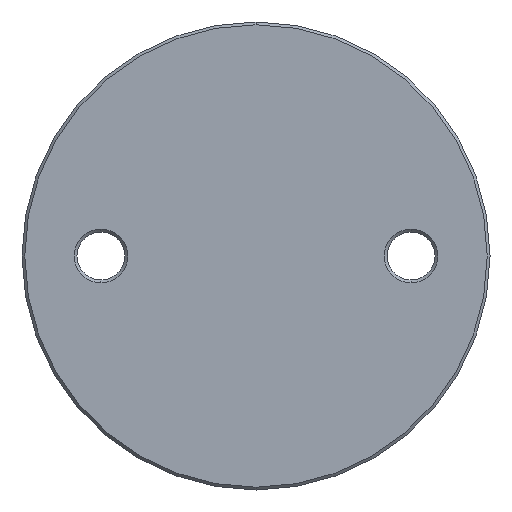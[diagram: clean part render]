
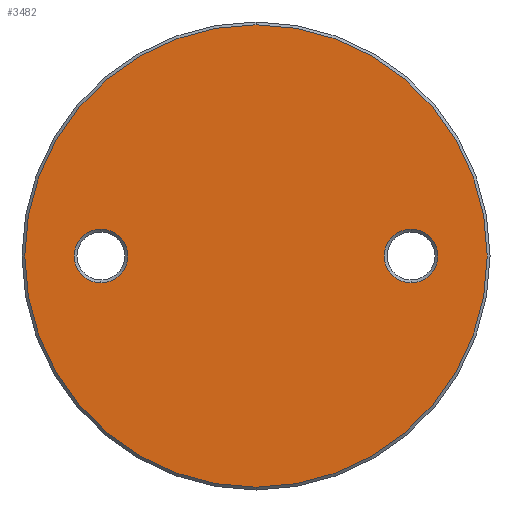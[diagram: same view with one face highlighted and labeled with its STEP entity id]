
A CAD part, front view. The second image highlights one B-rep face of the part: STEP entity #3482.
In plain terms, the highlighted planar face has unit normal (0, -1, 0).
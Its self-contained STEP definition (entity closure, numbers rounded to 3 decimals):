
#3 = AXIS2_PLACEMENT_3D ( 'NONE', #5463, #3053, #7229 ) ;
#55 = DIRECTION ( 'NONE',  ( 0., 0., -1. ) ) ;
#289 = EDGE_CURVE ( 'NONE', #6464, #9000, #4646, .T. ) ;
#791 = CARTESIAN_POINT ( 'NONE',  ( 0., -3., 41.5 ) ) ;
#869 = EDGE_LOOP ( 'NONE', ( #1090, #10445 ) ) ;
#956 = VERTEX_POINT ( 'NONE', #7854 ) ;
#1090 = ORIENTED_EDGE ( 'NONE', *, *, #3136, .T. ) ;
#1907 = DIRECTION ( 'NONE',  ( 0., -1., 0. ) ) ;
#2225 = VERTEX_POINT ( 'NONE', #6268 ) ;
#2608 = CARTESIAN_POINT ( 'NONE',  ( 0., -3., 0. ) ) ;
#2839 = EDGE_CURVE ( 'NONE', #956, #8697, #7240, .T. ) ;
#2840 = DIRECTION ( 'NONE',  ( 0., 0., -1. ) ) ;
#2968 = FACE_BOUND ( 'NONE', #869, .T. ) ;
#3011 = EDGE_CURVE ( 'NONE', #9000, #6464, #8655, .T. ) ;
#3053 = DIRECTION ( 'NONE',  ( 0., 1., 0. ) ) ;
#3101 = ORIENTED_EDGE ( 'NONE', *, *, #3011, .T. ) ;
#3136 = EDGE_CURVE ( 'NONE', #3637, #2225, #6605, .T. ) ;
#3161 = DIRECTION ( 'NONE',  ( 0., 0., -1. ) ) ;
#3482 = ADVANCED_FACE ( 'NONE', ( #2968, #10451, #6074 ), #8206, .T. ) ;
#3637 = VERTEX_POINT ( 'NONE', #5029 ) ;
#3723 = DIRECTION ( 'NONE',  ( 0., 0., -1. ) ) ;
#4162 = ORIENTED_EDGE ( 'NONE', *, *, #7547, .T. ) ;
#4323 = CARTESIAN_POINT ( 'NONE',  ( 27.5, -3., 0. ) ) ;
#4328 = ORIENTED_EDGE ( 'NONE', *, *, #2839, .T. ) ;
#4641 = CARTESIAN_POINT ( 'NONE',  ( 0., -3., -41. ) ) ;
#4646 = CIRCLE ( 'NONE', #5900, 41. ) ;
#4967 = DIRECTION ( 'NONE',  ( 0., 1., 0. ) ) ;
#5012 = EDGE_CURVE ( 'NONE', #2225, #3637, #9780, .T. ) ;
#5029 = CARTESIAN_POINT ( 'NONE',  ( 27.5, -3., -4.75 ) ) ;
#5463 = CARTESIAN_POINT ( 'NONE',  ( -27.5, -3., 0. ) ) ;
#5557 = AXIS2_PLACEMENT_3D ( 'NONE', #791, #7440, #9887 ) ;
#5611 = DIRECTION ( 'NONE',  ( 0., -1., 0. ) ) ;
#5900 = AXIS2_PLACEMENT_3D ( 'NONE', #2608, #1907, #10072 ) ;
#6057 = AXIS2_PLACEMENT_3D ( 'NONE', #9825, #5611, #3161 ) ;
#6074 = FACE_OUTER_BOUND ( 'NONE', #10359, .T. ) ;
#6268 = CARTESIAN_POINT ( 'NONE',  ( 27.5, -3., 4.75 ) ) ;
#6464 = VERTEX_POINT ( 'NONE', #4641 ) ;
#6605 = CIRCLE ( 'NONE', #7216, 4.75 ) ;
#7216 = AXIS2_PLACEMENT_3D ( 'NONE', #4323, #4967, #55 ) ;
#7229 = DIRECTION ( 'NONE',  ( 0., 0., -1. ) ) ;
#7240 = CIRCLE ( 'NONE', #3, 4.75 ) ;
#7389 = AXIS2_PLACEMENT_3D ( 'NONE', #9473, #7894, #2840 ) ;
#7440 = DIRECTION ( 'NONE',  ( 0., -1., 0. ) ) ;
#7547 = EDGE_CURVE ( 'NONE', #8697, #956, #8826, .T. ) ;
#7785 = EDGE_LOOP ( 'NONE', ( #4162, #4328 ) ) ;
#7854 = CARTESIAN_POINT ( 'NONE',  ( -27.5, -3., 4.75 ) ) ;
#7894 = DIRECTION ( 'NONE',  ( 0., 1., 0. ) ) ;
#8096 = CARTESIAN_POINT ( 'NONE',  ( 0., -3., 41. ) ) ;
#8206 = PLANE ( 'NONE',  #5557 ) ;
#8296 = ORIENTED_EDGE ( 'NONE', *, *, #289, .T. ) ;
#8642 = CARTESIAN_POINT ( 'NONE',  ( 27.5, -3., 0. ) ) ;
#8655 = CIRCLE ( 'NONE', #6057, 41. ) ;
#8697 = VERTEX_POINT ( 'NONE', #9263 ) ;
#8826 = CIRCLE ( 'NONE', #7389, 4.75 ) ;
#9000 = VERTEX_POINT ( 'NONE', #8096 ) ;
#9096 = AXIS2_PLACEMENT_3D ( 'NONE', #8642, #9540, #3723 ) ;
#9263 = CARTESIAN_POINT ( 'NONE',  ( -27.5, -3., -4.75 ) ) ;
#9473 = CARTESIAN_POINT ( 'NONE',  ( -27.5, -3., 0. ) ) ;
#9540 = DIRECTION ( 'NONE',  ( 0., 1., 0. ) ) ;
#9780 = CIRCLE ( 'NONE', #9096, 4.75 ) ;
#9825 = CARTESIAN_POINT ( 'NONE',  ( 0., -3., 0. ) ) ;
#9887 = DIRECTION ( 'NONE',  ( 0., 0., -1. ) ) ;
#10072 = DIRECTION ( 'NONE',  ( 0., 0., -1. ) ) ;
#10359 = EDGE_LOOP ( 'NONE', ( #3101, #8296 ) ) ;
#10445 = ORIENTED_EDGE ( 'NONE', *, *, #5012, .T. ) ;
#10451 = FACE_BOUND ( 'NONE', #7785, .T. ) ;
